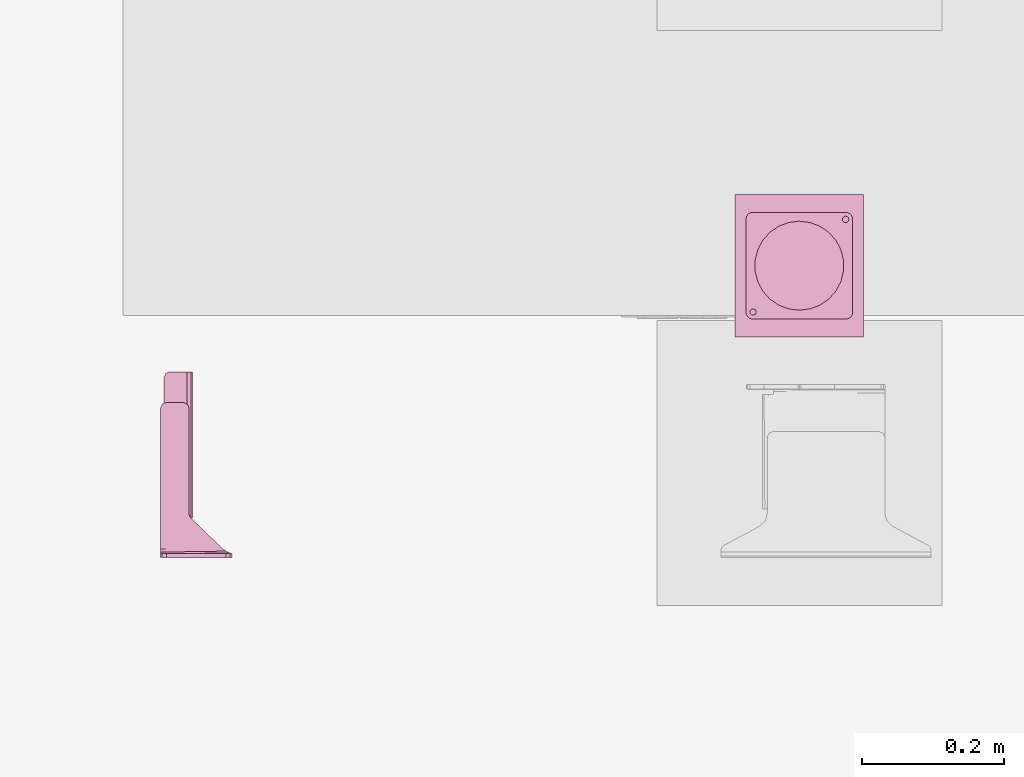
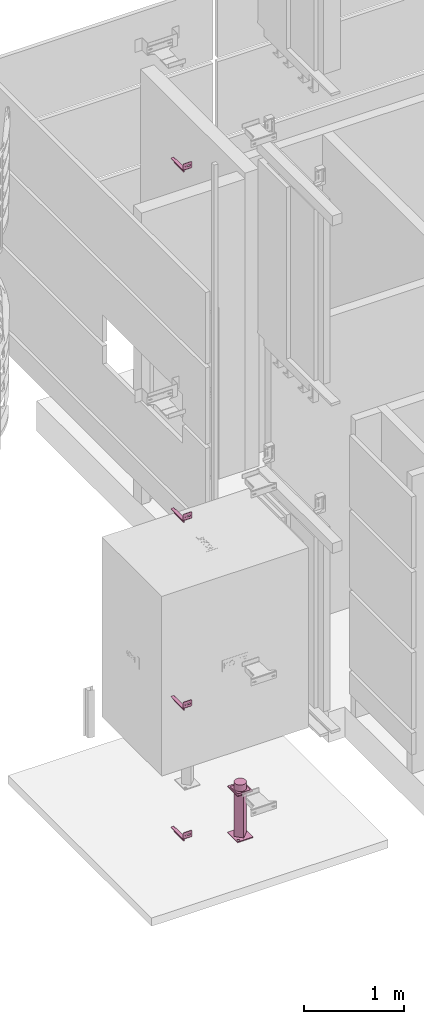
# One storey, part 10 of 15: 6 transport elements.
"""IFC2X3 building model written with IfcOpenShell, lengths in millimetres."""

from ifc_helpers import new_model, entity, si_unit, converted_unit, derived_unit, direction, frame, frame_2d, origin, place, context, subcontext, project, spatial, polyline, circle_curve, parameter, trimmed, segment, composite_curve, circle, outline, extrude, faceted_brep, source, transform, mapped, type_object, type_shapes, element, save


model = new_model("IFC2X3")

# Units and contexts
model_context = context("Model", 3, precision=0.01, world=origin(), true_north=direction((6.12303176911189e-17, 1.0)))
body_context = subcontext(model_context, "Body", "Model", "MODEL_VIEW")
ifc_project = project(units=[si_unit("LENGTHUNIT", "METRE", prefix="MILLI"), si_unit("AREAUNIT", "SQUARE_METRE"), si_unit("VOLUMEUNIT", "CUBIC_METRE"), converted_unit("PLANEANGLEUNIT", "DEGREE", entity("IfcRatioMeasure", 0.0174532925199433), si_unit("PLANEANGLEUNIT", "RADIAN"), dimensions=[0, 0, 0, 0, 0, 0, 0]), si_unit("MASSUNIT", "GRAM", prefix="KILO"), derived_unit("MASSDENSITYUNIT", [(si_unit("MASSUNIT", "GRAM", prefix="KILO"), 1), (si_unit("LENGTHUNIT", "METRE"), -3)]), si_unit("TIMEUNIT", "SECOND"), si_unit("FREQUENCYUNIT", "HERTZ"), si_unit("THERMODYNAMICTEMPERATUREUNIT", "DEGREE_CELSIUS"), derived_unit("THERMALTRANSMITTANCEUNIT", [(si_unit("MASSUNIT", "GRAM", prefix="KILO"), 1), (si_unit("THERMODYNAMICTEMPERATUREUNIT", "KELVIN"), -1), (si_unit("TIMEUNIT", "SECOND"), -3)]), derived_unit("VOLUMETRICFLOWRATEUNIT", [(si_unit("LENGTHUNIT", "METRE"), 3), (si_unit("TIMEUNIT", "SECOND"), -1)]), si_unit("ELECTRICCURRENTUNIT", "AMPERE"), si_unit("ELECTRICVOLTAGEUNIT", "VOLT"), si_unit("POWERUNIT", "WATT"), si_unit("FORCEUNIT", "NEWTON", prefix="KILO"), si_unit("ILLUMINANCEUNIT", "LUX"), si_unit("LUMINOUSFLUXUNIT", "LUMEN"), si_unit("LUMINOUSINTENSITYUNIT", "CANDELA"), derived_unit("USERDEFINED", [(si_unit("MASSUNIT", "GRAM", prefix="KILO"), -1), (si_unit("LENGTHUNIT", "METRE"), -2), (si_unit("TIMEUNIT", "SECOND"), 3), (si_unit("LUMINOUSFLUXUNIT", "LUMEN"), 1)]), derived_unit("LINEARVELOCITYUNIT", [(si_unit("LENGTHUNIT", "METRE"), 1), (si_unit("TIMEUNIT", "SECOND"), -1)]), si_unit("PRESSUREUNIT", "PASCAL"), derived_unit("USERDEFINED", [(si_unit("LENGTHUNIT", "METRE"), -2), (si_unit("MASSUNIT", "GRAM", prefix="KILO"), 1), (si_unit("TIMEUNIT", "SECOND"), -2)])], contexts=[model_context])

# Site, building, storey
site_placement = place(None, frame((-151.875543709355, 2715.0, 0.0)))
site = spatial("IfcSite", under=ifc_project, at=site_placement, Name="Surface", CompositionType="ELEMENT")
building_placement = place(site_placement, origin())
building = spatial("IfcBuilding", under=site, at=building_placement, CompositionType="ELEMENT")
storey_placement = place(building_placement, frame((0.0, 0.0, -135.0)))
storey = spatial("IfcBuildingStorey", under=building, at=storey_placement, Name="uus 1 korrus", CompositionType="ELEMENT", Elevation=-134.99999999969)

# Transport elements
transport_element_type_1 = type_object("IfcTransportElementType", Name="KONE_Buffer_PU_125x80D")
shared_shape_1 = source(origin(), body_context, "Body", "SweptSolid", [
    extrude(outline(composite_curve([segment(polyline([(-65.0, -75.0), (65.0, -75.0)]), True, "CONTINUOUS"), segment(trimmed(circle_curve(frame_2d((65.0, -65.0), x_axis=(-1.0, 0.0)), 10.0), [parameter(90.0000000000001)], [parameter(180.0)], True, "PARAMETER"), True, "CONTINUOUS"), segment(polyline([(75.0, -65.0), (75.0, 65.0)]), True, "CONTINUOUS"), segment(trimmed(circle_curve(frame_2d((65.0, 65.0), x_axis=(-1.0, 0.0)), 10.0), [parameter(180.0)], [parameter(269.999999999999)], True, "PARAMETER"), True, "CONTINUOUS"), segment(polyline([(65.0, 75.0), (-65.0, 75.0)]), True, "CONTINUOUS"), segment(trimmed(circle_curve(frame_2d((-65.0, 65.0), x_axis=(-1.0, 0.0)), 10.0), [parameter(269.999999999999)], [parameter(360.0)], True, "PARAMETER"), True, "CONTINUOUS"), segment(polyline([(-75.0, 65.0), (-75.0, -65.0)]), True, "CONTINUOUS"), segment(trimmed(circle_curve(frame_2d((-65.0, -65.0), x_axis=(-1.0, 0.0)), 10.0), [parameter(0.0)], [parameter(90.0000000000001)], True, "PARAMETER"), True, "CONTINUOUS")], self_intersect=False), holes=[composite_curve([segment(trimmed(circle_curve(frame_2d((65.0, -65.0), x_axis=(-1.0, 0.0)), 4.5), [parameter(180.0)], [parameter(0.0)], True, "PARAMETER"), False, "CONTINUOUS"), segment(trimmed(circle_curve(frame_2d((65.0, -65.0), x_axis=(-1.0, 0.0)), 4.5), [parameter(2.03555499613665e-13)], [parameter(180.0)], True, "PARAMETER"), False, "CONTINUOUS")], self_intersect=False), composite_curve([segment(trimmed(circle_curve(frame_2d((-65.0, 65.0), x_axis=(1.0, 0.0)), 4.5), [parameter(180.0)], [parameter(0.0)], True, "PARAMETER"), False, "CONTINUOUS"), segment(trimmed(circle_curve(frame_2d((-65.0, 65.0), x_axis=(1.0, 0.0)), 4.5), [parameter(4.07110999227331e-13)], [parameter(180.0)], True, "PARAMETER"), False, "CONTINUOUS")], self_intersect=False)]), frame((129.368600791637, 20.0915440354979, 0.0), z_axis=(0.0, 0.0, 1.0), x_axis=(-1.0, 0.0, 0.0)), (0.0, 0.0, 1.0), 2.99999999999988),
    extrude(circle(Radius=62.5, at=frame_2d((1.69197988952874e-14, -1.01518793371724e-13), x_axis=(1.0, 0.0))), frame((129.368600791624, 20.0915440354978, 3.0), z_axis=(0.0, 0.0, 1.0), x_axis=(-1.0, 0.0, 0.0)), (0.0, 0.0, 1.0), 79.9999999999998),
])
type_shapes(transport_element_type_1, [shared_shape_1])
transport_element_1_placement = place(storey_placement, frame((30776.7093111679, 19940.6313993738, -525.0), z_axis=(0.0, 0.0, 1.0), x_axis=(0.0, 1.0, 0.0)))
element("IfcTransportElement", 1, at=transport_element_1_placement, inside=storey, type_object=transport_element_type_1, Name="KONE_Buffer_PU_125x80D_CAR:KONE_Buffer_PU_125x80D", ObjectType="KONE_Buffer_PU_125x80D", CapacityByNumber=0.0, CapacityByWeight=0.0, OperationType="ELEVATOR", context=body_context, shape_type="MappedRepresentation", body=[
    mapped(shared_shape_1, transform((0.0, 0.0, 0.0), scale=1.0)),
])
transport_element_type_2 = type_object("IfcTransportElementType", Name="KONE_Buffer_Extension_KM812340G06")
shared_shape_2 = source(origin(), body_context, "Body", "Brep", [
    faceted_brep([(200.0, 180.0, 10.0), (182.499999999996, 37.9903810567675, 10.0), (184.374999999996, 34.7427857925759, 10.0), (186.249999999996, 31.4951905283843, 10.0), (188.124999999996, 28.2475952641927, 10.0), (190.0, 25.0, 10.0), (200.0, 0.0, 10.0), (178.749999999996, 37.9903810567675, 10.0), (175.0, 37.9903810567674, 10.0), (171.249999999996, 37.9903810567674, 10.0), (167.499999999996, 37.9903810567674, 10.0), (40.0, 155.0, 10.0), (38.1249999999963, 158.247595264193, 10.0), (36.2499999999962, 161.495190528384, 10.0), (34.3749999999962, 164.742785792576, 10.0), (32.4999999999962, 167.990381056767, 10.0), (0.0, 180.0, 10.0), (28.7499999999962, 167.990381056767, 10.0), (25.0, 167.990381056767, 10.0), (21.2499999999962, 167.990381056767, 10.0), (17.4999999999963, 167.990381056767, 10.0), (15.8630176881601, 165.155044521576, 10.0), (14.226035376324, 162.319707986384, 10.0), (12.1130176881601, 158.659853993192, 10.0), (10.0, 155.0, 10.0), (0.0, 0.0, 10.0), (167.499999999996, 12.0096189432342, 10.0), (165.624999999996, 15.2572142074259, 10.0), (163.749999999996, 18.5048094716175, 10.0), (161.874999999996, 21.7524047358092, 10.0), (160.0, 25.0, 10.0), (32.4999999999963, 142.009618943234, 10.0), (28.7499999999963, 142.009618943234, 10.0), (25.0, 142.009618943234, 10.0), (21.2499999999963, 142.009618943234, 10.0), (17.4999999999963, 142.009618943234, 10.0), (15.6249999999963, 145.257214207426, 10.0), (13.7499999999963, 148.504809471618, 10.0), (11.8749999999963, 151.752404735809, 10.0), (37.8869823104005, 151.340146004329, 10.0), (35.7739646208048, 147.680292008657, 10.0), (34.1369823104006, 144.844955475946, 10.0), (162.11301768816, 28.6598539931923, 10.0), (164.226035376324, 32.3197079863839, 10.0), (165.86301768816, 35.1550445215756, 10.0), (187.8869823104, 21.3401460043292, 10.0), (185.773964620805, 17.6802920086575, 10.0), (184.1369823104, 14.8449554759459, 10.0), (182.499999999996, 12.0096189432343, 10.0), (178.749999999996, 12.0096189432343, 10.0), (175.0, 12.0096189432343, 10.0), (171.249999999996, 12.0096189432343, 10.0), (0.0, 180.0, 0.0), (10.0, 155.0, 0.0), (0.0, 0.0, 0.0), (12.1130176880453, 158.659853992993, 0.0), (13.7499999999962, 161.495190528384, 0.0), (15.6249999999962, 164.742785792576, 0.0), (17.4999999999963, 167.990381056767, 0.0), (21.2499999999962, 167.990381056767, 0.0), (25.0, 167.990381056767, 0.0), (28.7499999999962, 167.990381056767, 0.0), (32.4999999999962, 167.990381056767, 0.0), (200.0, 180.0, 0.0), (34.3749999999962, 164.742785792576, 0.0), (36.2499999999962, 161.495190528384, 0.0), (37.8869823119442, 158.659853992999, 0.0), (40.0, 155.0, 0.0), (167.499999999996, 37.9903810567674, 0.0), (171.249999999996, 37.9903810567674, 0.0), (175.0, 37.9903810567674, 0.0), (178.749999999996, 37.9903810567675, 0.0), (182.499999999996, 37.9903810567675, 0.0), (184.374999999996, 34.7427857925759, 0.0), (186.249999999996, 31.4951905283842, 0.0), (187.886982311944, 28.6598539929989, 0.0), (190.0, 25.0, 0.0), (200.0, 0.0, 0.0), (167.499999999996, 12.0096189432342, 0.0), (171.249999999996, 12.0096189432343, 0.0), (175.0, 12.0096189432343, 0.0), (178.749999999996, 12.0096189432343, 0.0), (182.499999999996, 12.0096189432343, 0.0), (184.374999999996, 15.2572142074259, 0.0), (186.249999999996, 18.5048094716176, 0.0), (187.886982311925, 21.340146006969, 0.0), (37.8869823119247, 151.340146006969, 0.0), (36.2499999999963, 148.504809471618, 0.0), (34.3749999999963, 145.257214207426, 0.0), (32.4999999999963, 142.009618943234, 0.0), (165.624999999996, 34.7427857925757, 0.0), (163.749999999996, 31.4951905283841, 0.0), (162.113017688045, 28.6598539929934, 0.0), (160.0, 25.0, 0.0), (162.113017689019, 21.3401460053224, 0.0), (163.749999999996, 18.5048094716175, 0.0), (165.624999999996, 15.2572142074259, 0.0), (28.7499999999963, 142.009618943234, 0.0), (12.1130176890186, 151.340146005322, 0.0), (13.7499999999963, 148.504809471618, 0.0), (15.6249999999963, 145.257214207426, 0.0), (17.4999999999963, 142.009618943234, 0.0), (21.2499999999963, 142.009618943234, 0.0), (25.0, 142.009618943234, 0.0)], [[[0, 1, 2]], [[0, 2, 3]], [[0, 3, 4]], [[0, 4, 5]], [[5, 6, 0]], [[0, 7, 1]], [[0, 8, 7]], [[0, 9, 8]], [[0, 10, 9]], [[10, 0, 11]], [[0, 12, 11]], [[0, 13, 12]], [[0, 14, 13]], [[0, 15, 14]], [[15, 0, 16]], [[16, 17, 15]], [[16, 18, 17]], [[16, 19, 18]], [[16, 20, 19]], [[16, 21, 20]], [[16, 22, 21]], [[16, 23, 22]], [[16, 24, 23]], [[24, 16, 25]], [[6, 26, 25]], [[25, 26, 27]], [[25, 27, 28]], [[25, 28, 29]], [[25, 29, 30]], [[31, 25, 30]], [[25, 31, 32]], [[25, 32, 33]], [[25, 33, 34]], [[25, 34, 35]], [[25, 35, 36]], [[25, 36, 37]], [[25, 37, 38]], [[25, 38, 24]], [[10, 11, 39]], [[10, 39, 40]], [[10, 40, 41]], [[10, 41, 31]], [[31, 30, 42]], [[31, 42, 43]], [[31, 43, 44]], [[31, 44, 10]], [[6, 5, 45]], [[6, 45, 46]], [[6, 46, 47]], [[6, 47, 48]], [[6, 48, 49]], [[6, 49, 50]], [[6, 50, 51]], [[6, 51, 26]], [[52, 53, 54]], [[52, 55, 53]], [[52, 56, 55]], [[52, 57, 56]], [[52, 58, 57]], [[52, 59, 58]], [[52, 60, 59]], [[52, 61, 60]], [[52, 62, 61]], [[52, 63, 62]], [[63, 64, 62]], [[63, 65, 64]], [[63, 66, 65]], [[63, 67, 66]], [[67, 63, 68]], [[63, 69, 68]], [[63, 70, 69]], [[63, 71, 70]], [[63, 72, 71]], [[63, 73, 72]], [[63, 74, 73]], [[63, 75, 74]], [[63, 76, 75]], [[77, 76, 63]], [[78, 77, 54]], [[77, 78, 79]], [[77, 79, 80]], [[77, 80, 81]], [[77, 81, 82]], [[77, 82, 83]], [[77, 83, 84]], [[77, 84, 85]], [[77, 85, 76]], [[68, 86, 67]], [[68, 87, 86]], [[68, 88, 87]], [[68, 89, 88]], [[89, 68, 90]], [[89, 90, 91]], [[89, 91, 92]], [[89, 92, 93]], [[54, 89, 93]], [[54, 93, 94]], [[54, 94, 95]], [[54, 95, 96]], [[54, 96, 78]], [[54, 97, 89]], [[54, 53, 98]], [[54, 98, 99]], [[54, 99, 100]], [[54, 100, 101]], [[54, 101, 102]], [[54, 102, 103]], [[54, 103, 97]], [[16, 0, 63, 52]], [[25, 16, 52, 54]], [[6, 25, 54, 77]], [[0, 6, 77, 63]], [[20, 21, 22, 23, 24, 53, 55, 56, 57, 58]], [[12, 13, 14, 15, 62, 64, 65, 66, 67, 11]], [[62, 15, 17, 18, 19, 20, 58, 59, 60, 61]], [[31, 41, 40, 39, 11, 67, 86, 87, 88, 89]], [[38, 37, 36, 35, 101, 100, 99, 98, 53, 24]], [[101, 35, 34, 33, 32, 31, 89, 97, 103, 102]], [[10, 44, 43, 42, 30, 93, 92, 91, 90, 68]], [[4, 3, 2, 1, 72, 73, 74, 75, 76, 5]], [[72, 1, 7, 8, 9, 10, 68, 69, 70, 71]], [[48, 47, 46, 45, 5, 76, 85, 84, 83, 82]], [[29, 28, 27, 26, 78, 96, 95, 94, 93, 30]], [[78, 26, 51, 50, 49, 48, 82, 81, 80, 79]]]),
    faceted_brep([(100.0, 90.0, 565.0), (100.0, 159.850000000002, 565.0), (91.2687499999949, 151.118750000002, 565.0), (82.5374999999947, 142.387500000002, 565.0), (73.8062499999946, 133.656250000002, 565.0), (65.0749999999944, 124.925000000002, 565.0), (56.3437499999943, 116.193750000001, 565.0), (47.6124999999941, 107.462500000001, 565.0), (38.881249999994, 98.7312500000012, 565.0), (30.1499999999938, 90.0, 565.0), (38.3117181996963, 81.8382818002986, 565.0), (108.731249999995, 151.118750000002, 565.0), (117.462499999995, 142.387500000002, 565.0), (126.193749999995, 133.656250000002, 565.0), (134.924999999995, 124.925000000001, 565.0), (143.656249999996, 116.193750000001, 565.0), (152.387499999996, 107.462500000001, 565.0), (161.118749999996, 98.731250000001, 565.0), (169.849999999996, 90.0, 565.0), (46.4734363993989, 73.676563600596, 565.0), (55.7742181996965, 64.3757818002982, 565.0), (65.0749999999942, 55.0750000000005, 565.0), (73.8062499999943, 46.3437500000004, 565.0), (82.5374999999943, 37.6125000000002, 565.0), (91.2687499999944, 28.88125, 565.0), (100.0, 20.1499999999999, 565.0), (108.731249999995, 28.8812499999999, 565.0), (117.462499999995, 37.6125, 565.0), (126.193749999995, 46.3437500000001, 565.0), (134.924999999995, 55.0750000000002, 565.0), (143.656249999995, 63.8062500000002, 565.0), (152.387499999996, 72.5375000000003, 565.0), (161.118749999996, 81.2687500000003, 565.0), (100.0, 90.0, 10.0), (30.1499999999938, 90.0, 10.0), (38.3117182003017, 98.161718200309, 10.0), (46.4734364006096, 106.323436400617, 10.0), (55.774218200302, 115.624218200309, 10.0), (65.0749999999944, 124.925000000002, 10.0), (73.8062499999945, 133.656250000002, 10.0), (82.5374999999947, 142.387500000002, 10.0), (91.2687499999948, 151.118750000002, 10.0), (100.0, 159.850000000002, 10.0), (108.731249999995, 151.118750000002, 10.0), (117.462499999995, 142.387500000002, 10.0), (126.193749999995, 133.656250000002, 10.0), (134.924999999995, 124.925000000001, 10.0), (144.225781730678, 115.624218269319, 10.0), (153.52656346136, 106.323436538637, 10.0), (161.688281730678, 98.161718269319, 10.0), (169.849999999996, 90.0, 10.0), (161.688281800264, 81.8382818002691, 10.0), (38.8812499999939, 81.2687500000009, 10.0), (47.612499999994, 72.5375000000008, 10.0), (56.3437499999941, 63.8062500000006, 10.0), (65.0749999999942, 55.0750000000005, 10.0), (73.8062499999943, 46.3437500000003, 10.0), (82.5374999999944, 37.6125000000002, 10.0), (91.2687499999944, 28.88125, 10.0), (100.0, 20.1499999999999, 10.0), (153.526563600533, 73.6765636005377, 10.0), (144.225781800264, 64.3757818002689, 10.0), (134.924999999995, 55.0750000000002, 10.0), (126.193749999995, 46.3437500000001, 10.0), (117.462499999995, 37.6125, 10.0), (108.731249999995, 28.8812499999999, 10.0)], [[[0, 1, 2]], [[0, 2, 3]], [[0, 3, 4]], [[0, 4, 5]], [[0, 5, 6]], [[0, 6, 7]], [[0, 7, 8]], [[0, 8, 9]], [[0, 9, 10]], [[0, 11, 1]], [[0, 12, 11]], [[0, 13, 12]], [[0, 14, 13]], [[0, 15, 14]], [[0, 16, 15]], [[0, 17, 16]], [[0, 18, 17]], [[0, 10, 19]], [[0, 19, 20]], [[0, 20, 21]], [[0, 21, 22]], [[0, 22, 23]], [[0, 23, 24]], [[0, 24, 25]], [[0, 25, 26]], [[0, 26, 27]], [[0, 27, 28]], [[0, 28, 29]], [[0, 29, 30]], [[0, 30, 31]], [[0, 31, 32]], [[0, 32, 18]], [[33, 34, 35]], [[33, 35, 36]], [[33, 36, 37]], [[33, 37, 38]], [[33, 38, 39]], [[33, 39, 40]], [[33, 40, 41]], [[33, 41, 42]], [[33, 42, 43]], [[33, 43, 44]], [[33, 44, 45]], [[33, 45, 46]], [[33, 46, 47]], [[33, 47, 48]], [[33, 48, 49]], [[33, 49, 50]], [[33, 50, 51]], [[33, 52, 34]], [[33, 53, 52]], [[33, 54, 53]], [[33, 55, 54]], [[33, 56, 55]], [[33, 57, 56]], [[33, 58, 57]], [[33, 59, 58]], [[33, 51, 60]], [[33, 60, 61]], [[33, 61, 62]], [[33, 62, 63]], [[33, 63, 64]], [[33, 64, 65]], [[33, 65, 59]], [[47, 46, 45, 44, 43, 42, 1, 11, 12, 13, 14, 15, 16, 17, 18, 50, 49, 48]], [[36, 35, 34, 9, 8, 7, 6, 5, 4, 3, 2, 1, 42, 41, 40, 39, 38, 37]], [[34, 52, 53, 54, 55, 56, 57, 58, 59, 25, 24, 23, 22, 21, 20, 19, 10, 9]], [[30, 29, 28, 27, 26, 25, 59, 65, 64, 63, 62, 61, 60, 51, 50, 18, 32, 31]]]),
    faceted_brep([(200.0, 180.0, 575.0), (0.0, 180.0, 575.0), (0.0, 0.0, 575.0), (200.0, 0.0, 575.0), (200.0, 180.0, 565.0), (200.0, 0.0, 565.0), (0.0, 0.0, 565.0), (0.0, 180.0, 565.0)], [[[0, 1, 2, 3]], [[4, 5, 6, 7]], [[1, 0, 4, 7]], [[2, 1, 7, 6]], [[3, 2, 6, 5]], [[0, 3, 5, 4]]]),
])
type_shapes(transport_element_type_2, [shared_shape_2])
transport_element_2_placement = place(storey_placement, frame((30846.6177671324, 19970.0, -1100.0), z_axis=(0.0, 0.0, 1.0), x_axis=(0.0, 1.0, 0.0)))
element("IfcTransportElement", 2, at=transport_element_2_placement, inside=storey, type_object=transport_element_type_2, Name="KONE_Buffer_Extension_KM812340G06_CAR:KONE_Buffer_Extension_KM812340G06", ObjectType="KONE_Buffer_Extension_KM812340G06", CapacityByNumber=0.0, CapacityByWeight=0.0, OperationType="ELEVATOR", context=body_context, shape_type="MappedRepresentation", body=[
    mapped(shared_shape_2, transform((0.0, 0.0, 0.0), scale=1.0)),
])
transport_element_type_3 = type_object("IfcTransportElementType", Name="KONE_CWT_Bracket_KM51010607V000_L97-565_LH")
shared_shape_3 = source(origin(), body_context, "Body", "Brep", [
    faceted_brep([(6.59527223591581, 68.5952722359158, 9.59527223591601), (6.59527223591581, 68.5952722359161, 198.595272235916), (8.93841798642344, 68.5952722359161, 204.252126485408), (14.5952722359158, 68.5952722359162, 206.595272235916), (38.5952722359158, 68.5952722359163, 206.595272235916), (38.5952722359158, 68.595272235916, 1.59527223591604), (14.5952722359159, 68.5952722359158, 1.595272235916), (8.93841798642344, 68.5952722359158, 3.93841798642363), (46.5952722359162, 9.59527223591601, 1.59527223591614), (46.5952722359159, 60.595272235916, 1.59527223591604), (46.5952722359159, 60.5952722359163, 206.595272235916), (46.5952722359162, 9.59527223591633, 206.595272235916), (46.5952722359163, 3.93841798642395, 204.252126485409), (46.5952722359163, 1.59527223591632, 198.595272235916), (46.5952722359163, 1.59527223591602, 9.59527223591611), (46.5952722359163, 3.93841798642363, 3.93841798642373), (44.2521264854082, 66.2521264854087, 206.595272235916), (44.2521264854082, 66.2521264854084, 1.59527223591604), (14.5952722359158, 64.5952722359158, 1.59527223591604), (42.5952722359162, 9.59527223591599, 1.59527223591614), (42.5952722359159, 60.595272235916, 1.59527223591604), (41.423699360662, 63.4236993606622, 1.59527223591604), (38.5952722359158, 64.595272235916, 1.59527223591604), (14.5952722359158, 64.5952722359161, 206.595272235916), (38.5952722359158, 64.5952722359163, 206.595272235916), (41.423699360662, 63.4236993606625, 206.595272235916), (42.5952722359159, 60.5952722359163, 206.595272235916), (42.5952722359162, 9.59527223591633, 206.595272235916), (6.59527223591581, 64.5952722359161, 198.595272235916), (6.59527223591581, 64.5952722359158, 9.59527223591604), (8.93841798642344, 64.5952722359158, 3.93841798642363), (8.93841798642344, 64.5952722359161, 204.252126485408), (42.5952722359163, 1.595272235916, 9.59527223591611), (42.5952722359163, 1.59527223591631, 198.595272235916), (42.5952722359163, 3.93841798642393, 204.252126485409), (42.5952722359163, 3.93841798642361, 3.93841798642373)], [[[0, 1, 2, 3, 4, 5, 6, 7]], [[8, 9, 10, 11, 12, 13, 14, 15]], [[5, 4, 16, 17]], [[16, 10, 9, 17]], [[18, 6, 5, 17, 9, 8, 19, 20, 21, 22]], [[4, 3, 23, 24, 25, 26, 27, 11, 10, 16]], [[28, 1, 0, 29]], [[29, 30, 18, 22, 24, 23, 31, 28]], [[21, 25, 24, 22]], [[20, 26, 25, 21]], [[32, 14, 13, 33]], [[32, 33, 34, 27, 26, 20, 19, 35]], [[11, 27, 34, 12]], [[34, 33, 13, 12]], [[14, 32, 35, 15]], [[35, 19, 8, 15]], [[1, 28, 31, 2]], [[31, 23, 3, 2]], [[6, 18, 30, 7]], [[30, 29, 0, 7]]]),
    faceted_brep([(9.59527223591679, 68.5952722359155, 44.5952722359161), (33.5952722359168, 68.5952722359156, 44.5952722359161), (39.2521264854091, 68.5952722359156, 46.9384179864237), (41.5952722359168, 68.5952722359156, 52.5952722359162), (41.5952722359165, 68.5952722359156, 201.201861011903), (42.2304431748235, 68.5952722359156, 204.325847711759), (44.0350954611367, 68.5952722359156, 206.953768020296), (89.1814791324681, 68.5952722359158, 250.595272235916), (1.59527223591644, 68.5952722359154, 250.595272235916), (1.59527223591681, 68.5952722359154, 52.5952722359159), (3.93841798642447, 68.5952722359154, 46.9384179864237), (1.59527223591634, 80.5952722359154, 262.595272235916), (22.095272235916, 113.556110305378, 262.595272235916), (1.595272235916, 145.595272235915, 262.595272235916), (24.345272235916, 109.658995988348, 262.595272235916), (28.845272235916, 109.658995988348, 262.595272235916), (51.0952722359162, 106.595272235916, 262.595272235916), (101.024082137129, 80.5952722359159, 262.595272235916), (82.0952722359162, 106.595272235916, 262.595272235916), (101.595272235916, 83.5639054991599, 262.595272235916), (101.45117699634, 82.0523631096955, 262.595272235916), (88.1574500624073, 110.095272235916, 262.595272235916), (101.595272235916, 145.595272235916, 262.595272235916), (82.0952722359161, 120.595272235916, 262.595272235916), (93.5952722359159, 153.595272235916, 262.595272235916), (99.2521264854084, 151.252126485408, 262.595272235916), (51.0952722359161, 120.595272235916, 262.595272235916), (9.59527223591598, 153.595272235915, 262.595272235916), (3.93841798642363, 151.252126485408, 262.595272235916), (24.345272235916, 117.453224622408, 262.595272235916), (28.845272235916, 117.453224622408, 262.595272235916), (45.0330944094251, 117.095272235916, 262.595272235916), (31.095272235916, 113.556110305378, 262.595272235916), (1.59527223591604, 145.595272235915, 256.595272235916), (1.59527223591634, 80.5952722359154, 256.595272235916), (1.59527223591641, 76.3526315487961, 254.837912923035), (1.59527223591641, 74.5952722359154, 250.595272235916), (1.59527223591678, 74.5952722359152, 52.5952722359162), (1.59527223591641, 72.1099908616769, 259.080553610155), (93.595272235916, 153.595272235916, 256.595272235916), (9.59527223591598, 153.595272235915, 256.595272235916), (101.595272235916, 83.5639054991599, 256.595272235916), (101.595272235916, 145.595272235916, 256.595272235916), (101.024082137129, 80.5952722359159, 258.505131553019), (101.024082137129, 80.5952722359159, 256.595272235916), (101.45117699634, 82.0523631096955, 256.595272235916), (101.024082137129, 80.5952722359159, 260.550201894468), (22.095272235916, 113.556110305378, 256.595272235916), (24.345272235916, 117.453224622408, 256.595272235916), (3.93841798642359, 151.252126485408, 256.595272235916), (28.845272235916, 117.453224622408, 256.595272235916), (51.0952722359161, 120.595272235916, 256.595272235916), (82.0952722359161, 120.595272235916, 256.595272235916), (99.2521264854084, 151.252126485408, 256.595272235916), (88.1574500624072, 117.095272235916, 256.595272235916), (82.0952722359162, 106.595272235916, 256.595272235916), (51.0952722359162, 106.595272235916, 256.595272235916), (28.845272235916, 109.658995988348, 256.595272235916), (45.0330944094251, 110.095272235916, 256.595272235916), (31.095272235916, 113.556110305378, 256.595272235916), (24.345272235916, 109.658995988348, 256.595272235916), (90.8716474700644, 69.4620352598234, 252.858782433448), (92.5618158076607, 70.3287982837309, 255.12229263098), (95.1663075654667, 71.6644505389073, 258.610284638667), (97.465270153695, 74.4277936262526, 260.483120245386), (99.1554490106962, 76.4593813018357, 261.860013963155), (100.266113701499, 78.4119141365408, 262.394973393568), (100.712666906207, 79.6982283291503, 262.51297842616), (99.5844357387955, 77.2135339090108, 262.066638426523), (93.1709213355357, 75.2946816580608, 253.406631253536), (89.1814791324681, 74.5952722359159, 250.595272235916), (99.1554490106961, 78.5273267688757, 256.227643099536), (96.1631851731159, 76.9110042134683, 254.817137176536), (100.210249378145, 79.4435397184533, 256.483694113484), (91.9979663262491, 73.1956418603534, 253.24829144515), (95.9182311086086, 75.042966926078, 256.584606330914), (93.8250527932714, 72.2078564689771, 255.941846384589), (96.5595031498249, 74.2861590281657, 258.572840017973), (99.1554490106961, 77.1486964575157, 259.982557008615), (89.1814791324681, 72.6854129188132, 250.595272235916), (89.1814791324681, 73.6403425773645, 250.595272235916), (99.1554490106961, 77.8380116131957, 258.105100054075), (91.5229558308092, 70.8366156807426, 253.466684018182), (89.1814791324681, 70.6403425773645, 250.595272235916), (99.8105848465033, 78.1658035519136, 259.676951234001), (100.153361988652, 79.0035157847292, 258.299767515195), (100.441096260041, 79.1968158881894, 259.981181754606), (44.0350954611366, 74.5952722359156, 206.953768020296), (41.5952722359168, 74.5952722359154, 52.5952722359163), (41.5952722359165, 74.5952722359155, 201.201861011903), (33.5952722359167, 74.5952722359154, 44.5952722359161), (9.59527223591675, 74.5952722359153, 44.5952722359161), (42.2304431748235, 74.5952722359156, 204.325847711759), (39.2521264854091, 74.5952722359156, 46.9384179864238), (3.9384179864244, 74.5952722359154, 46.9384179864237)], [[[0, 1, 2, 3, 4, 5, 6, 7, 8, 9, 10]], [[11, 12, 13]], [[12, 11, 14]], [[15, 14, 11]], [[15, 11, 16]], [[16, 11, 17]], [[18, 16, 17]], [[17, 19, 18]], [[17, 20, 19]], [[18, 19, 21]], [[21, 19, 22]], [[23, 21, 22]], [[22, 24, 23]], [[24, 22, 25]], [[26, 23, 24]], [[26, 24, 27]], [[13, 27, 28]], [[27, 13, 29]], [[27, 30, 26]], [[29, 30, 27]], [[26, 30, 31]], [[30, 32, 31]], [[31, 32, 16]], [[32, 15, 16]], [[13, 12, 29]], [[13, 33, 34, 35, 36, 37, 9, 8, 38, 11]], [[39, 40, 27, 24]], [[19, 41, 42, 22]], [[43, 44, 45, 20, 17, 46]], [[45, 41, 19, 20]], [[33, 47, 34]], [[48, 47, 33]], [[48, 33, 40]], [[49, 40, 33]], [[40, 50, 48]], [[51, 50, 40]], [[40, 39, 51]], [[39, 52, 51]], [[52, 39, 42]], [[53, 42, 39]], [[42, 54, 52]], [[42, 41, 54]], [[54, 41, 55]], [[55, 41, 44]], [[41, 45, 44]], [[44, 56, 55]], [[44, 34, 56]], [[56, 34, 57]], [[57, 58, 56]], [[51, 59, 50]], [[58, 59, 51]], [[58, 57, 59]], [[60, 34, 47]], [[34, 60, 57]], [[54, 23, 52]], [[21, 23, 54]], [[55, 18, 21]], [[54, 55, 21]], [[26, 51, 52, 23]], [[58, 16, 56]], [[31, 16, 58]], [[51, 26, 31]], [[58, 51, 31]], [[18, 55, 56, 16]], [[38, 7, 61, 62, 63]], [[38, 8, 7]], [[38, 63, 64, 65]], [[11, 66, 67, 17]], [[65, 11, 38]], [[11, 65, 68, 66]], [[36, 69, 70]], [[69, 36, 35]], [[35, 71, 72, 69]], [[34, 44, 73]], [[35, 34, 71]], [[73, 71, 34]], [[70, 69, 74]], [[75, 69, 72, 71]], [[76, 77, 63]], [[64, 77, 78]], [[74, 79, 80, 70]], [[78, 65, 64]], [[75, 74, 69]], [[77, 81, 78]], [[64, 63, 77]], [[76, 62, 82]], [[82, 79, 74]], [[82, 61, 83]], [[61, 82, 62]], [[74, 75, 76]], [[76, 63, 62]], [[76, 75, 77]], [[75, 81, 77]], [[74, 76, 82]], [[61, 7, 83]], [[82, 83, 79]], [[75, 71, 81]], [[84, 78, 81]], [[84, 66, 68]], [[68, 78, 84]], [[73, 85, 71]], [[86, 84, 85]], [[46, 17, 67]], [[46, 86, 43]], [[81, 71, 85]], [[67, 66, 86]], [[46, 67, 86]], [[43, 86, 85]], [[84, 86, 66]], [[81, 85, 84]], [[85, 44, 43]], [[85, 73, 44]], [[68, 65, 78]], [[80, 79, 83, 7, 6, 87, 70]], [[4, 3, 88, 89]], [[90, 1, 0, 91]], [[37, 36, 70, 87, 92, 89, 88, 93, 90, 91, 94]], [[1, 90, 93, 2]], [[93, 88, 3, 2]], [[9, 37, 94, 10]], [[94, 91, 0, 10]], [[27, 40, 49, 28]], [[49, 33, 13, 28]], [[22, 42, 53, 25]], [[53, 39, 24, 25]], [[92, 5, 4, 89]], [[87, 6, 5, 92]], [[14, 60, 47, 12]], [[14, 15, 57, 60]], [[32, 59, 57, 15]], [[30, 50, 59, 32]], [[30, 29, 48, 50]], [[12, 47, 48, 29]]]),
])
type_shapes(transport_element_type_3, [shared_shape_3])
transport_element_3_placement = place(storey_placement, frame((29858.0224948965, 19922.5952724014, -663.595254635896), z_axis=(0.0, -1.0, 0.0), x_axis=(1.0, 0.0, 0.0)))
element("IfcTransportElement", 3, at=transport_element_3_placement, inside=storey, type_object=transport_element_type_3, Name="KONE_CWT_Bracket_KM51010607V000_L97-565_LH:KONE_CWT_Bracket_KM51010607V000_L97-565_LH", ObjectType="KONE_CWT_Bracket_KM51010607V000_L97-565_LH", CapacityByNumber=0.0, CapacityByWeight=0.0, OperationType="ELEVATOR", context=body_context, shape_type="MappedRepresentation", body=[
    mapped(shared_shape_3, transform((0.0, 0.0, 0.0), scale=1.0)),
])

# Space
space_placement = place(storey_placement, origin())
space = spatial("IfcSpace", under=storey, at=space_placement, Name="132a", CompositionType="ELEMENT", InteriorOrExteriorSpace="INTERNAL")

# Transport elements
transport_element_4_placement = place(space_placement, frame((29858.0224948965, 19922.5952724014, 936.404796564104), z_axis=(0.0, -1.0, 0.0), x_axis=(1.0, 0.0, 0.0)))
element("IfcTransportElement", 4, at=transport_element_4_placement, inside=space, type_object=transport_element_type_3, Name="KONE_CWT_Bracket_KM51010607V000_L97-565_LH:KONE_CWT_Bracket_KM51010607V000_L97-565_LH", ObjectType="KONE_CWT_Bracket_KM51010607V000_L97-565_LH", CapacityByNumber=0.0, CapacityByWeight=0.0, OperationType="ELEVATOR", context=body_context, shape_type="MappedRepresentation", body=[
    mapped(shared_shape_3, transform((0.0, 0.0, 0.0), scale=1.0)),
])
for number, where, z_axis, x_axis in (
    (5, (29858.0224948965, 19922.5952724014, 3236.4048701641), (0.0, -1.0, 0.0), (1.0, 0.0, 0.0)),
    (6, (29858.0224948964, 19922.5952724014, 7526.4050074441), (0.0, -1.0, 0.0), (1.0, 0.0, 0.0)),
):
    element("IfcTransportElement", number, at=place(storey_placement, frame(where, z_axis=z_axis, x_axis=x_axis)), inside=storey, type_object=transport_element_type_3, Name="KONE_CWT_Bracket_KM51010607V000_L97-565_LH:KONE_CWT_Bracket_KM51010607V000_L97-565_LH", ObjectType="KONE_CWT_Bracket_KM51010607V000_L97-565_LH", CapacityByNumber=0.0, CapacityByWeight=0.0, OperationType="ELEVATOR", context=body_context, shape_type="MappedRepresentation", body=[
        mapped(shared_shape_3, transform((0.0, 0.0, 0.0), scale=1.0)),
    ])

save(model, "model.ifc")
